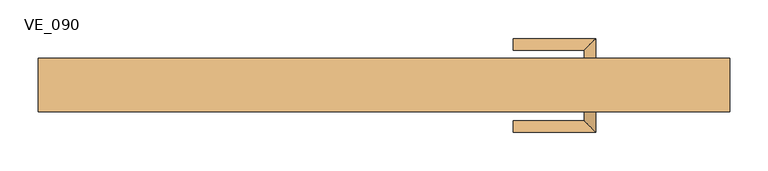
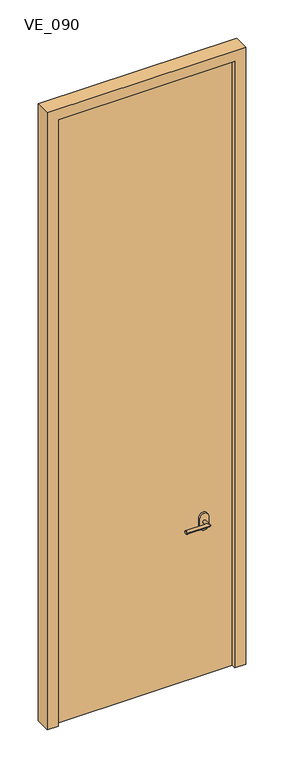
"""IFC4 building model written with IfcOpenShell, lengths in millimetres: door geometry, TRP_CP_ARC_PO_1B_PV : VE_090."""

from ifc_helpers import new_model, si_unit, point, frame, frame_2d, origin, origin_with_axes, place, context, project, spatial, polyline, circle_curve, ellipse_curve, trimmed, segment, composite_curve, outline, extrude, source, transform, mapped, element, save
from ifc_brep_helpers import plane_surface, cylinder_surface, advanced_brep


def ve_090_8462b8ca(model_context):
    return source(origin(), model_context, "Body", "SolidModel", [
        advanced_brep(
        [(260.6231001, -25.0, 740.0), (275.6231001, -25.0, 740.0), (260.6231001, -45.8278773, 740.0), (275.6231001, -60.8278773, 740.0), (168.1231001, -45.8278773, 740.0), (168.1231001, -60.8278773, 740.0)],
        [
            (0, 1, circle_curve(frame((268.1231001, -25.0, 740.0), z_axis=(0.0, 1.0, 0.0), x_axis=(1.0, 0.0, 0.0)), 7.5)),
            (1, 0, circle_curve(frame((268.1231001, -25.0, 740.0), z_axis=(0.0, 1.0, 0.0), x_axis=(1.0, 0.0, 0.0)), 7.5)),
            (0, 2),
            (2, 3, ellipse_curve(frame((268.1231001, -53.3278773, 740.0), z_axis=(0.7071067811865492, 0.7071067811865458, 0.0), x_axis=(-0.7071067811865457, 0.7071067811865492, 0.0)), 10.6066017, 7.5)),
            (3, 1),
            (3, 2, ellipse_curve(frame((268.1231001, -53.3278773, 740.0), z_axis=(0.7071067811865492, 0.7071067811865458, 0.0), x_axis=(-0.7071067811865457, 0.7071067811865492, 0.0)), 10.6066017, 7.5)),
            (4, 5, circle_curve(frame((168.1231001, -53.3278773, 740.0), z_axis=(-1.0, 0.0, 0.0), x_axis=(0.0, -1.0, 0.0)), 7.5)),
            (5, 4, circle_curve(frame((168.1231001, -53.3278773, 740.0), z_axis=(-1.0, 0.0, 0.0), x_axis=(0.0, -1.0, 0.0)), 7.5)),
            (2, 4),
            (5, 3),
        ],
        [
            plane_surface(frame((268.1231001, -25.0, 740.0), z_axis=(0.0, 1.0, 0.0), x_axis=(0.0, 0.0, 1.0))),
            cylinder_surface(frame((268.1231001, -25.0, 740.0), z_axis=(0.0, 1.0, 0.0), x_axis=(1.0, 0.0, 0.0)), 7.5),
            plane_surface(frame((168.1231001, -53.3278773, 740.0), z_axis=(-1.0, 0.0, 0.0), x_axis=(0.0, 0.0, 1.0))),
            cylinder_surface(frame((268.1231001, -53.3278773, 740.0), z_axis=(1.0, 0.0, 0.0), x_axis=(0.0, -1.0, 0.0)), 7.5),
        ],
        [
            (0, [[1, 2]]),
            (1, [[-1, 3, 4, 5]]),
            (1, [[-2, -5, 6, -3]]),
            (2, [[7, 8]]),
            (3, [[-4, 9, -8, 10]]),
            (3, [[-6, -10, -7, -9]]),
        ],
    ),
        extrude(outline(composite_curve([segment(trimmed(circle_curve(frame_2d((760.0, 268.1231001)), 20.0), [point((760.0, 288.1231001))], [point((760.0, 248.1231001))], False, "CARTESIAN"), True, "CONTINUOUS"), segment(polyline([(760.0, 248.1231001), (720.0, 248.1231001)]), True, "CONTINUOUS"), segment(trimmed(circle_curve(frame_2d((720.0, 268.1231001)), 20.0), [point((720.0, 248.1231001))], [point((720.0, 288.1231001))], False, "CARTESIAN"), True, "CONTINUOUS"), segment(polyline([(720.0, 288.1231001), (760.0, 288.1231001)]), True, "CONTINUOUS")], self_intersect=False)), frame((0.0, -25.0, 0.0), z_axis=(0.0, 1.0, 0.0), x_axis=(0.0, 0.0, 1.0)), (0.0, 0.0, 1.0), 10.0),
        advanced_brep(
        [(260.6231001, 25.0, 740.0), (275.6231001, 25.0, 740.0), (275.6231001, 60.8278773, 740.0), (260.6231001, 45.8278773, 740.0), (168.1231001, 45.8278773, 740.0), (168.1231001, 60.8278773, 740.0)],
        [
            (0, 1, circle_curve(frame((268.1231001, 25.0, 740.0), z_axis=(0.0, -1.0, 0.0), x_axis=(1.0, 0.0, 0.0)), 7.5)),
            (1, 0, circle_curve(frame((268.1231001, 25.0, 740.0), z_axis=(0.0, -1.0, 0.0), x_axis=(1.0, 0.0, 0.0)), 7.5)),
            (1, 2),
            (2, 3, ellipse_curve(frame((268.1231001, 53.3278773, 740.0), z_axis=(0.7071067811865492, -0.7071067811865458, 0.0), x_axis=(-0.7071067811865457, -0.7071067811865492, 0.0)), 10.6066017, 7.5)),
            (3, 0),
            (3, 2, ellipse_curve(frame((268.1231001, 53.3278773, 740.0), z_axis=(0.7071067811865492, -0.7071067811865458, 0.0), x_axis=(-0.7071067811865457, -0.7071067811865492, 0.0)), 10.6066017, 7.5)),
            (4, 5, circle_curve(frame((168.1231001, 53.3278773, 740.0), z_axis=(-1.0, 0.0, 0.0), x_axis=(0.0, 1.0, 0.0)), 7.5)),
            (5, 4, circle_curve(frame((168.1231001, 53.3278773, 740.0), z_axis=(-1.0, 0.0, 0.0), x_axis=(0.0, 1.0, 0.0)), 7.5)),
            (2, 5),
            (4, 3),
        ],
        [
            plane_surface(frame((268.1231001, 25.0, 740.0), z_axis=(0.0, -1.0, 0.0), x_axis=(0.0, 0.0, 1.0))),
            cylinder_surface(frame((268.1231001, 25.0, 740.0), z_axis=(0.0, -1.0, 0.0), x_axis=(1.0, 0.0, 0.0)), 7.5),
            plane_surface(frame((168.1231001, 53.3278773, 740.0), z_axis=(-1.0, 0.0, 0.0), x_axis=(0.0, 0.0, 1.0))),
            cylinder_surface(frame((268.1231001, 53.3278773, 740.0), z_axis=(1.0, 0.0, 0.0), x_axis=(0.0, 1.0, 0.0)), 7.5),
        ],
        [
            (0, [[1, 2]]),
            (1, [[3, 4, 5, -2]]),
            (1, [[-5, 6, -3, -1]]),
            (2, [[7, 8]]),
            (3, [[9, -7, 10, -4]]),
            (3, [[-10, -8, -9, -6]]),
        ],
    ),
        extrude(outline(composite_curve([segment(trimmed(circle_curve(frame_2d((760.0, 268.1231001)), 20.0), [point((760.0, 288.1231001))], [point((760.0, 248.1231001))], False, "CARTESIAN"), True, "CONTINUOUS"), segment(polyline([(760.0, 248.1231001), (720.0, 248.1231001)]), True, "CONTINUOUS"), segment(trimmed(circle_curve(frame_2d((720.0, 268.1231001)), 20.0), [point((720.0, 248.1231001))], [point((720.0, 288.1231001))], False, "CARTESIAN"), True, "CONTINUOUS"), segment(polyline([(720.0, 288.1231001), (760.0, 288.1231001)]), True, "CONTINUOUS")], self_intersect=False)), frame((0.0, 15.0, 0.0), z_axis=(0.0, 1.0, 0.0), x_axis=(0.0, 0.0, 1.0)), (0.0, 0.0, 1.0), 10.0),
        extrude(outline(polyline([(400.0, 15.0), (400.0, -15.0), (-400.0, -15.0), (-400.0, 15.0), (400.0, 15.0)])), origin_with_axes(), (0.0, 0.0, 1.0), 2905.0),
        extrude(outline(polyline([(0.0, 450.0), (2955.0, 450.0), (2955.0, -450.0), (0.0, -450.0), (0.0, -400.0), (2905.0, -400.0), (2905.0, 400.0), (0.0, 400.0), (0.0, 450.0)])), frame((0.0, -35.0, 0.0), z_axis=(0.0, 1.0, 0.0), x_axis=(0.0, 0.0, 1.0)), (0.0, 0.0, 1.0), 70.0),
    ])


if __name__ == "__main__":
    model = new_model("IFC4")
    model_context = context("Model", 3, world=origin())
    ifc_project = project(units=[si_unit("LENGTHUNIT", "METRE", prefix="MILLI")], contexts=[model_context])
    site = spatial("IfcSite", under=ifc_project)
    building = spatial("IfcBuilding", under=site)
    placement = place(None, origin())
    ve_090_shape = ve_090_8462b8ca(model_context)
    element("IfcDoor", 1, ObjectType="TRP_CP_ARC_PO_1B_PV : VE_090", at=placement, inside=building, context=model_context, shape_type="MappedRepresentation", body=[
        mapped(ve_090_shape, transform((0.0, 0.0, 0.0), x_axis=(1.0, 0.0, 0.0), y_axis=(0.0, 1.0, 0.0), z_axis=(0.0, 0.0, 1.0))),
    ])
    save(model, "model.ifc")
